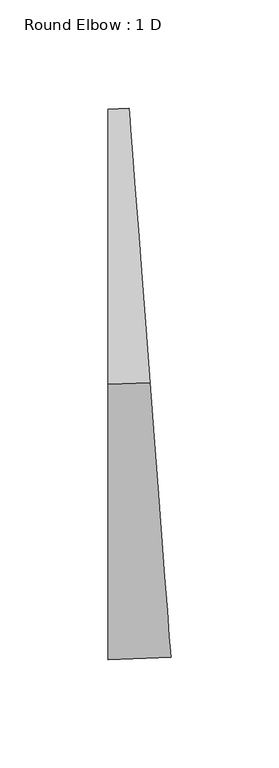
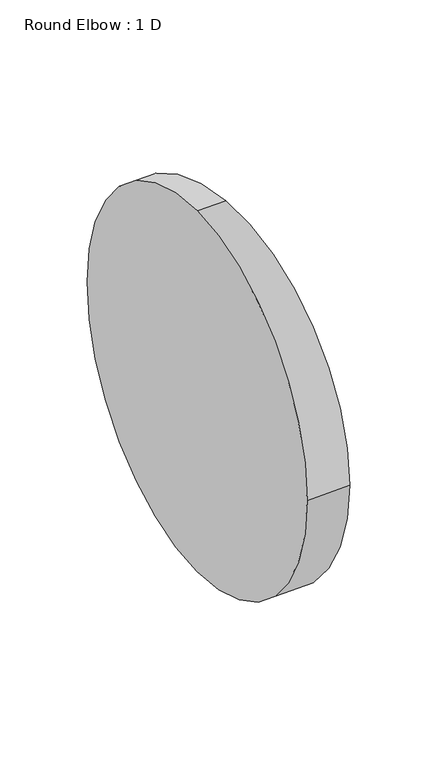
"""IFC4 building model written with IfcOpenShell, lengths in millimetres: duct fitting geometry, Round Elbow : 1 D."""

from ifc_helpers import new_model, si_unit, point, frame, origin, place, context, project, spatial, circle_curve, ellipse_curve, trimmed, source, transform, mapped, element, save
from ifc_brep_helpers import plane_surface, revolved_surface, advanced_brep


def round_elbow_1_d_e085309a(model_context):
    return source(origin(), model_context, "Body", "AdvancedBrep", [
        advanced_brep(
        [(-9.6545341, 0.0, 127.0), (-9.6545341, 127.0, 0.0), (-9.6545341, 0.0, -127.0), (-9.6545341, -127.0, 0.0), (9.6266774, 0.7328784, 127.0), (19.2672831, -125.9006824, 0.0), (9.6266774, 0.7328784, -127.0), (-0.0139283, 127.3664392, 0.0)],
        [
            (0, 1, circle_curve(frame((-9.6545341, 0.0, 0.0), z_axis=(-1.0, 0.0, 0.0), x_axis=(0.0, 1.0, 0.0)), 127.0)),
            (1, 2, circle_curve(frame((-9.6545341, 0.0, 0.0), z_axis=(-1.0, 0.0, 0.0), x_axis=(0.0, 1.0, 0.0)), 127.0)),
            (2, 3, circle_curve(frame((-9.6545341, 0.0, 0.0), z_axis=(-1.0, 0.0, 0.0), x_axis=(0.0, 1.0, 0.0)), 127.0)),
            (3, 0, circle_curve(frame((-9.6545341, 0.0, 0.0), z_axis=(-1.0, 0.0, 0.0), x_axis=(0.0, 1.0, 0.0)), 127.0)),
            (4, 5, circle_curve(frame((9.6266774, 0.7328784, 0.0), z_axis=(0.997114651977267, 0.07591028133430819, 0.0), x_axis=(-0.07591028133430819, 0.997114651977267, 0.0)), 127.0)),
            (5, 6, circle_curve(frame((9.6266774, 0.7328784, 0.0), z_axis=(0.997114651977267, 0.07591028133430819, 0.0), x_axis=(-0.07591028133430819, 0.997114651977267, 0.0)), 127.0)),
            (6, 7, circle_curve(frame((9.6266774, 0.7328784, 0.0), z_axis=(0.997114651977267, 0.07591028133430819, 0.0), x_axis=(-0.07591028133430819, 0.997114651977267, 0.0)), 127.0)),
            (7, 4, circle_curve(frame((9.6266774, 0.7328784, 0.0), z_axis=(0.997114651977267, 0.07591028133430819, 0.0), x_axis=(-0.07591028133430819, 0.997114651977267, 0.0)), 127.0)),
            (7, 1, circle_curve(frame((-9.6545341, 254.0, 0.0), z_axis=(0.0, 0.0, -1.0), x_axis=(0.0, -1.0, 0.0)), 127.0)),
            (0, 4, circle_curve(frame((-9.6545341, 254.0, 127.0), z_axis=(0.0, 0.0, 1.0), x_axis=(0.0, -1.0, 0.0)), 254.0)),
            (6, 2, circle_curve(frame((-9.6545341, 254.0, -127.0), z_axis=(0.0, 0.0, -1.0), x_axis=(0.0, -1.0, 0.0)), 254.0)),
            (5, 3, circle_curve(frame((-9.6545341, 254.0, 0.0), z_axis=(0.0, 0.0, -1.0), x_axis=(0.0, -1.0, 0.0)), 381.0)),
        ],
        [
            plane_surface(frame((-9.6545341, 0.0, 0.0), z_axis=(-1.0, 0.0, 0.0), x_axis=(0.0, 0.0, 1.0))),
            plane_surface(frame((9.6266774, 0.7328784, 0.0), z_axis=(0.997114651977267, 0.0759102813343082, 0.0), x_axis=(0.0, 0.0, 1.0))),
            revolved_surface(trimmed(ellipse_curve(frame((-9.6545341, 0.0, 0.0), z_axis=(-1.0, 0.0, 0.0), x_axis=(0.0, 1.0, 0.0)), 127.0, 127.0), [point((-9.6545341, 0.0, 127.0))], [point((-9.6545341, 127.0, 0.0))], True, "CARTESIAN"), (-9.6545341, 254.0, 0.0), (0.0, 0.0, 1.0)),
            revolved_surface(trimmed(ellipse_curve(frame((-9.6545341, 0.0, 0.0), z_axis=(-1.0, 0.0, 0.0), x_axis=(0.0, 1.0, 0.0)), 127.0, 127.0), [point((-9.6545341, 127.0, 0.0))], [point((-9.6545341, 0.0, -127.0))], True, "CARTESIAN"), (-9.6545341, 254.0, 0.0), (0.0, 0.0, 1.0)),
            revolved_surface(trimmed(ellipse_curve(frame((-9.6545341, 0.0, 0.0), z_axis=(-1.0, 0.0, 0.0), x_axis=(0.0, 1.0, 0.0)), 127.0, 127.0), [point((-9.6545341, 0.0, -127.0))], [point((-9.6545341, -127.0, 0.0))], True, "CARTESIAN"), (-9.6545341, 254.0, 0.0), (0.0, 0.0, 1.0)),
            revolved_surface(trimmed(ellipse_curve(frame((-9.6545341, 0.0, 0.0), z_axis=(-1.0, 0.0, 0.0), x_axis=(0.0, 1.0, 0.0)), 127.0, 127.0), [point((-9.6545341, -127.0, 0.0))], [point((-9.6545341, 0.0, 127.0))], True, "CARTESIAN"), (-9.6545341, 254.0, 0.0), (0.0, 0.0, 1.0)),
        ],
        [
            (0, [[1, 2, 3, 4]]),
            (1, [[5, 6, 7, 8]]),
            (2, [[9, -1, 10, -8]]),
            (3, [[11, -2, -9, -7]]),
            (4, [[12, -3, -11, -6]]),
            (5, [[-10, -4, -12, -5]]),
        ],
    ),
    ])


if __name__ == "__main__":
    model = new_model("IFC4")
    model_context = context("Model", 3, world=origin())
    ifc_project = project(units=[si_unit("LENGTHUNIT", "METRE", prefix="MILLI")], contexts=[model_context])
    site = spatial("IfcSite", under=ifc_project)
    building = spatial("IfcBuilding", under=site)
    placement = place(None, origin())
    round_elbow_1_d_shape = round_elbow_1_d_e085309a(model_context)
    element("IfcDuctFitting", 1, ObjectType="Round Elbow : 1 D", at=placement, inside=building, context=model_context, shape_type="MappedRepresentation", body=[
        mapped(round_elbow_1_d_shape, transform((0.0, 0.0, 0.0), x_axis=(1.0, 0.0, 0.0), y_axis=(0.0, 1.0, 0.0), z_axis=(0.0, 0.0, 1.0))),
    ])
    save(model, "model.ifc")
